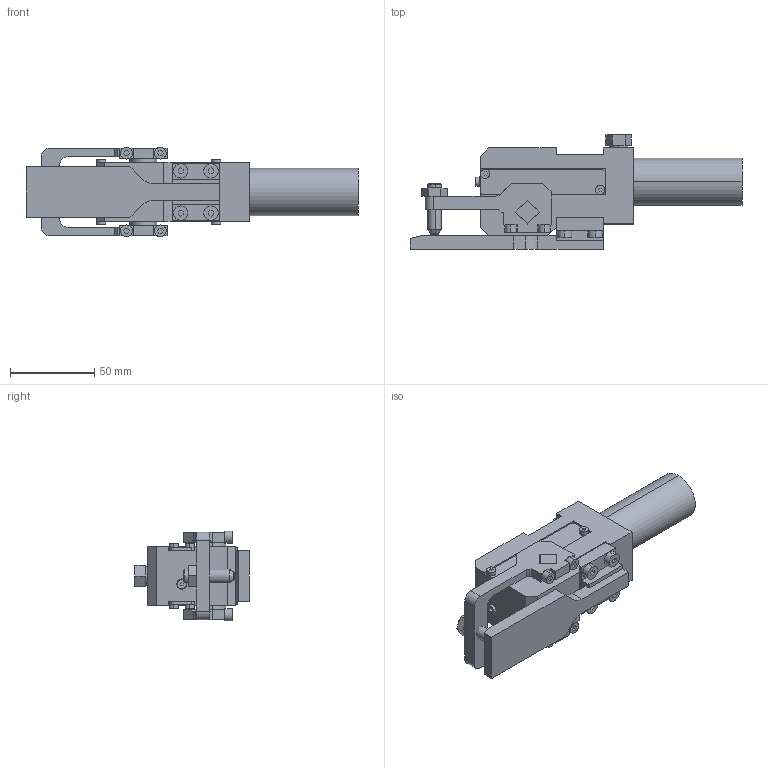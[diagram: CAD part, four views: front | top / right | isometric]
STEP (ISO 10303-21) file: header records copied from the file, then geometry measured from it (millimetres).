
FILE_DESCRIPTION (( 'STEP AP214' ), '1' );
FILE_NAME ('g20_g01_p_i_x_c.STEP', '2014-03-17T09:46:25', ( 'vep' ), ( 'TOSHIBA' ), 'SwSTEP 2.0', 'SolidWorks 2013', '' );
FILE_SCHEMA (( 'AUTOMOTIVE_DESIGN' ));
Length unit declared in the file: millimetre
Products named in the file (6): vite_m8x30_zigrinata_3_080; supporto_fisso_G20; riparo_G20; g20_g01_p_i_x_c; gruppo_montante_G20; leva_g01_G20
Assembly tree (6 placements, depth 2):
  g20_g01_p_i_x_c
    gruppo_montante_G20
    leva_g01_G20
    riparo_G20  x2
    supporto_fisso_G20
    vite_m8x30_zigrinata_3_080
Bounding box: 196.5 x 67.9 x 53 mm (x, y, z)
Volume: 230678.5 mm3; surface area: 57247.7 mm2
Topology: 8 solids, 8 shells, 518 faces, 1228 edges, 751 vertices
Faces by surface type: plane 370, cylinder 112, cone 36
Entity records: 14602 total; most frequent: CARTESIAN_POINT 2390, DIRECTION 2332, ORIENTED_EDGE 2240, EDGE_CURVE 1120, VECTOR 854, LINE 854, AXIS2_PLACEMENT_3D 739, VERTEX_POINT 701
